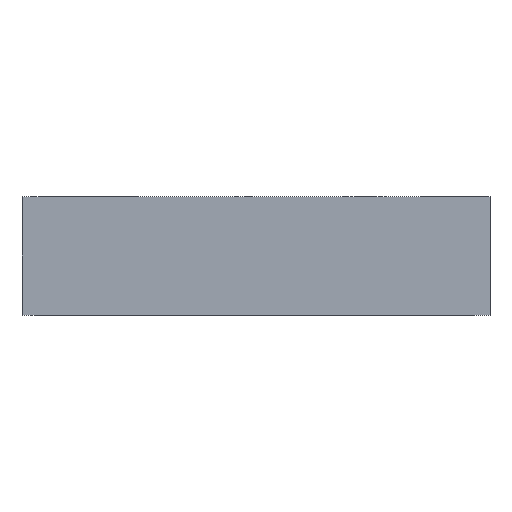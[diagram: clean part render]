
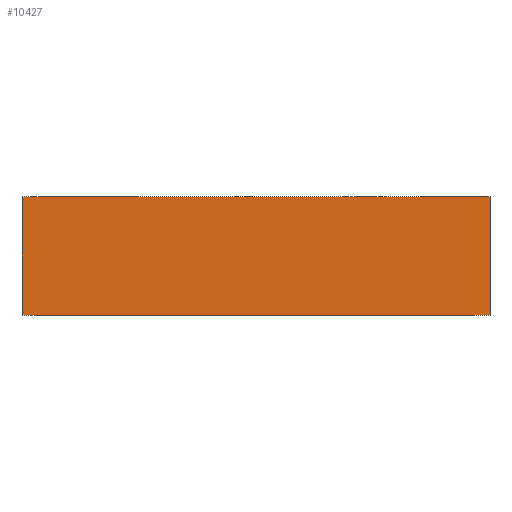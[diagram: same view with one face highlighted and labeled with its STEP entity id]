
A CAD part, left-side view. The second image highlights one B-rep face of the part: STEP entity #10427.
In plain terms, the highlighted planar face has unit normal (-1, 0, 0).
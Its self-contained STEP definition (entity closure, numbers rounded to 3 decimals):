
#5160 = CARTESIAN_POINT ( 'NONE',  ( -18.5, -26.9, 0. ) ) ;
#5161 = CARTESIAN_POINT ( 'NONE',  ( -18.5, 26.9, 0. ) ) ;
#5162 = DIRECTION ( 'NONE',  ( 0., -1., 0. ) ) ;
#5163 = VECTOR ( 'NONE', #5162, 1000. ) ;
#5164 = CARTESIAN_POINT ( 'NONE',  ( -18.5, 26.9, 0. ) ) ;
#5165 = LINE ( 'NONE', #5164, #5163 ) ;
#5249 = CARTESIAN_POINT ( 'NONE',  ( -18.5, 26.9, 13.6 ) ) ;
#5422 = DIRECTION ( 'NONE',  ( 0., 0., -1. ) ) ;
#5423 = VECTOR ( 'NONE', #5422, 1000. ) ;
#5424 = CARTESIAN_POINT ( 'NONE',  ( -18.5, 26.9, 13.6 ) ) ;
#5425 = LINE ( 'NONE', #5424, #5423 ) ;
#5446 = FACE_OUTER_BOUND ( 'NONE', #10428, .T. ) ;
#5476 = DIRECTION ( 'NONE',  ( 0., -1., 0. ) ) ;
#5477 = VECTOR ( 'NONE', #5476, 1000. ) ;
#5478 = CARTESIAN_POINT ( 'NONE',  ( -18.5, 26.9, 13.6 ) ) ;
#5479 = LINE ( 'NONE', #5478, #5477 ) ;
#5480 = CARTESIAN_POINT ( 'NONE',  ( -18.5, -26.9, 13.6 ) ) ;
#5481 = DIRECTION ( 'NONE',  ( 0., 0., -1. ) ) ;
#5482 = VECTOR ( 'NONE', #5481, 1000. ) ;
#5483 = CARTESIAN_POINT ( 'NONE',  ( -18.5, -26.9, 13.6 ) ) ;
#5484 = DIRECTION ( 'NONE',  ( 0., 1., 0. ) ) ;
#5485 = DIRECTION ( 'NONE',  ( 1., 0., 0. ) ) ;
#5486 = CARTESIAN_POINT ( 'NONE',  ( -18.5, 26.9, 13.6 ) ) ;
#5487 = AXIS2_PLACEMENT_3D ( 'NONE', #5486, #5485, #5484 ) ;
#5488 = LINE ( 'NONE', #5483, #5482 ) ;
#5489 = PLANE ( 'NONE',  #5487 ) ;
#10309 = EDGE_CURVE ( 'NONE', #10310, #10311, #5165, .T. ) ;
#10310 = VERTEX_POINT ( 'NONE', #5161 ) ;
#10311 = VERTEX_POINT ( 'NONE', #5160 ) ;
#10350 = VERTEX_POINT ( 'NONE', #5249 ) ;
#10351 = ORIENTED_EDGE ( 'NONE', *, *, #10411, .T. ) ;
#10411 = EDGE_CURVE ( 'NONE', #10350, #10310, #5425, .T. ) ;
#10427 = ADVANCED_FACE ( 'NONE', ( #5446 ), #5489, .F. ) ;
#10428 = EDGE_LOOP ( 'NONE', ( #10429, #10430, #10433, #10351 ) ) ;
#10429 = ORIENTED_EDGE ( 'NONE', *, *, #10309, .T. ) ;
#10430 = ORIENTED_EDGE ( 'NONE', *, *, #10431, .F. ) ;
#10431 = EDGE_CURVE ( 'NONE', #10432, #10311, #5488, .T. ) ;
#10432 = VERTEX_POINT ( 'NONE', #5480 ) ;
#10433 = ORIENTED_EDGE ( 'NONE', *, *, #10434, .F. ) ;
#10434 = EDGE_CURVE ( 'NONE', #10350, #10432, #5479, .T. ) ;
